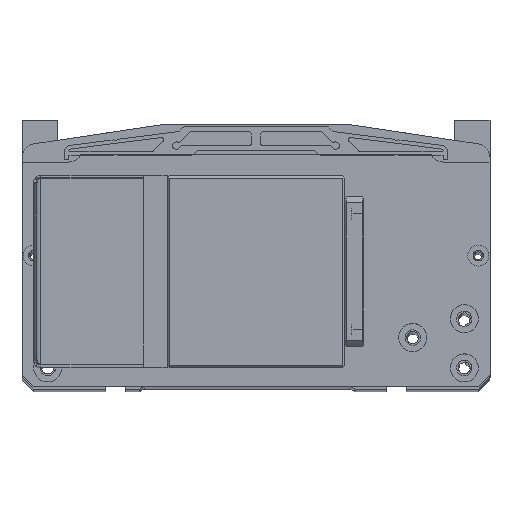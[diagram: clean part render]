
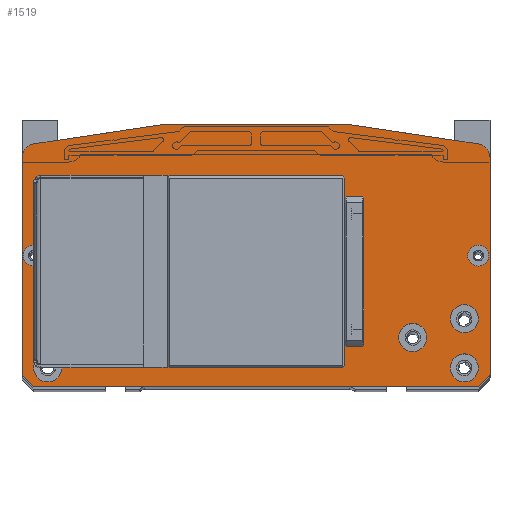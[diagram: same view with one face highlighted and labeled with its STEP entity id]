
A CAD part, top view. The second image highlights one B-rep face of the part: STEP entity #1519.
In plain terms, the highlighted planar face has unit normal (0, 0, 1).
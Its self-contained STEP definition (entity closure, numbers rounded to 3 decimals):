
#1519=ADVANCED_FACE('',(#5804,#5805,#5806,#5807,#5808,#5809,#5810,#5811,
#5812,#5813,#5814,#5815,#5816),#2507,.F.);
#2507=PLANE('',#17803);
#2972=LINE('',#24762,#4388);
#2973=LINE('',#24765,#4389);
#2974=LINE('',#24767,#4390);
#2975=LINE('',#24769,#4391);
#2976=LINE('',#24773,#4392);
#2977=LINE('',#24775,#4393);
#2978=LINE('',#24777,#4394);
#2979=LINE('',#24781,#4395);
#2980=LINE('',#24782,#4396);
#2981=LINE('',#24785,#4397);
#2982=LINE('',#24787,#4398);
#2983=LINE('',#24789,#4399);
#2984=LINE('',#24790,#4400);
#2985=LINE('',#24793,#4401);
#2986=LINE('',#24795,#4402);
#2987=LINE('',#24797,#4403);
#4388=VECTOR('',#19657,1.);
#4389=VECTOR('',#19658,1.);
#4390=VECTOR('',#19659,1.);
#4391=VECTOR('',#19660,1.);
#4392=VECTOR('',#19663,1.);
#4393=VECTOR('',#19664,1.);
#4394=VECTOR('',#19665,1.);
#4395=VECTOR('',#19668,1.);
#4396=VECTOR('',#19669,1.);
#4397=VECTOR('',#19670,1.);
#4398=VECTOR('',#19671,1.);
#4399=VECTOR('',#19672,1.);
#4400=VECTOR('',#19673,1.);
#4401=VECTOR('',#19674,1.);
#4402=VECTOR('',#19675,1.);
#4403=VECTOR('',#19676,1.);
#5804=FACE_BOUND('',#6486,.T.);
#5805=FACE_BOUND('',#6487,.T.);
#5806=FACE_BOUND('',#6488,.T.);
#5807=FACE_BOUND('',#6489,.T.);
#5808=FACE_BOUND('',#6490,.T.);
#5809=FACE_BOUND('',#6491,.T.);
#5810=FACE_BOUND('',#6492,.T.);
#5811=FACE_BOUND('',#6493,.T.);
#5812=FACE_BOUND('',#6494,.T.);
#5813=FACE_BOUND('',#6495,.T.);
#5814=FACE_BOUND('',#6496,.T.);
#5815=FACE_BOUND('',#6497,.T.);
#5816=FACE_BOUND('',#6498,.T.);
#6486=EDGE_LOOP('',(#7846));
#6487=EDGE_LOOP('',(#7847));
#6488=EDGE_LOOP('',(#7848));
#6489=EDGE_LOOP('',(#7849));
#6490=EDGE_LOOP('',(#7850));
#6491=EDGE_LOOP('',(#7851));
#6492=EDGE_LOOP('',(#7852));
#6493=EDGE_LOOP('',(#7853));
#6494=EDGE_LOOP('',(#7854));
#6495=EDGE_LOOP('',(#7855));
#6496=EDGE_LOOP('',(#7856,#7857,#7858,#7859,#7860,#7861,#7862,#7863,#7864,
#7865));
#6497=EDGE_LOOP('',(#7866,#7867,#7868,#7869));
#6498=EDGE_LOOP('',(#7870,#7871,#7872,#7873));
#7846=ORIENTED_EDGE('',*,*,#14468,.T.);
#7847=ORIENTED_EDGE('',*,*,#14469,.T.);
#7848=ORIENTED_EDGE('',*,*,#14470,.T.);
#7849=ORIENTED_EDGE('',*,*,#14471,.T.);
#7850=ORIENTED_EDGE('',*,*,#14472,.T.);
#7851=ORIENTED_EDGE('',*,*,#14473,.T.);
#7852=ORIENTED_EDGE('',*,*,#14474,.T.);
#7853=ORIENTED_EDGE('',*,*,#14475,.T.);
#7854=ORIENTED_EDGE('',*,*,#14476,.T.);
#7855=ORIENTED_EDGE('',*,*,#14477,.T.);
#7856=ORIENTED_EDGE('',*,*,#14478,.F.);
#7857=ORIENTED_EDGE('',*,*,#14479,.T.);
#7858=ORIENTED_EDGE('',*,*,#14480,.F.);
#7859=ORIENTED_EDGE('',*,*,#14481,.T.);
#7860=ORIENTED_EDGE('',*,*,#14482,.F.);
#7861=ORIENTED_EDGE('',*,*,#14483,.F.);
#7862=ORIENTED_EDGE('',*,*,#14484,.T.);
#7863=ORIENTED_EDGE('',*,*,#14485,.F.);
#7864=ORIENTED_EDGE('',*,*,#14486,.F.);
#7865=ORIENTED_EDGE('',*,*,#14487,.T.);
#7866=ORIENTED_EDGE('',*,*,#14488,.T.);
#7867=ORIENTED_EDGE('',*,*,#14489,.T.);
#7868=ORIENTED_EDGE('',*,*,#14490,.T.);
#7869=ORIENTED_EDGE('',*,*,#14491,.T.);
#7870=ORIENTED_EDGE('',*,*,#14492,.F.);
#7871=ORIENTED_EDGE('',*,*,#14493,.F.);
#7872=ORIENTED_EDGE('',*,*,#14494,.T.);
#7873=ORIENTED_EDGE('',*,*,#14495,.T.);
#12774=VERTEX_POINT('',#24743);
#12775=VERTEX_POINT('',#24745);
#12776=VERTEX_POINT('',#24747);
#12777=VERTEX_POINT('',#24749);
#12778=VERTEX_POINT('',#24751);
#12779=VERTEX_POINT('',#24753);
#12780=VERTEX_POINT('',#24755);
#12781=VERTEX_POINT('',#24757);
#12782=VERTEX_POINT('',#24759);
#12783=VERTEX_POINT('',#24761);
#12784=VERTEX_POINT('',#24763);
#12785=VERTEX_POINT('',#24764);
#12786=VERTEX_POINT('',#24766);
#12787=VERTEX_POINT('',#24768);
#12788=VERTEX_POINT('',#24770);
#12789=VERTEX_POINT('',#24772);
#12790=VERTEX_POINT('',#24774);
#12791=VERTEX_POINT('',#24776);
#12792=VERTEX_POINT('',#24778);
#12793=VERTEX_POINT('',#24780);
#12794=VERTEX_POINT('',#24783);
#12795=VERTEX_POINT('',#24784);
#12796=VERTEX_POINT('',#24786);
#12797=VERTEX_POINT('',#24788);
#12798=VERTEX_POINT('',#24791);
#12799=VERTEX_POINT('',#24792);
#12800=VERTEX_POINT('',#24794);
#12801=VERTEX_POINT('',#24796);
#14468=EDGE_CURVE('',#12774,#12774,#16932,.T.);
#14469=EDGE_CURVE('',#12775,#12775,#16933,.T.);
#14470=EDGE_CURVE('',#12776,#12776,#16934,.T.);
#14471=EDGE_CURVE('',#12777,#12777,#16935,.T.);
#14472=EDGE_CURVE('',#12778,#12778,#16936,.T.);
#14473=EDGE_CURVE('',#12779,#12779,#16937,.T.);
#14474=EDGE_CURVE('',#12780,#12780,#16938,.T.);
#14475=EDGE_CURVE('',#12781,#12781,#16939,.T.);
#14476=EDGE_CURVE('',#12782,#12782,#16940,.T.);
#14477=EDGE_CURVE('',#12783,#12783,#16941,.T.);
#14478=EDGE_CURVE('',#12784,#12785,#2972,.T.);
#14479=EDGE_CURVE('',#12784,#12786,#2973,.T.);
#14480=EDGE_CURVE('',#12787,#12786,#2974,.T.);
#14481=EDGE_CURVE('',#12787,#12788,#2975,.T.);
#14482=EDGE_CURVE('',#12789,#12788,#16942,.T.);
#14483=EDGE_CURVE('',#12790,#12789,#2976,.T.);
#14484=EDGE_CURVE('',#12790,#12791,#2977,.T.);
#14485=EDGE_CURVE('',#12792,#12791,#2978,.T.);
#14486=EDGE_CURVE('',#12793,#12792,#16943,.T.);
#14487=EDGE_CURVE('',#12793,#12785,#2979,.T.);
#14488=EDGE_CURVE('',#12794,#12795,#2980,.T.);
#14489=EDGE_CURVE('',#12795,#12796,#2981,.T.);
#14490=EDGE_CURVE('',#12796,#12797,#2982,.T.);
#14491=EDGE_CURVE('',#12797,#12794,#2983,.T.);
#14492=EDGE_CURVE('',#12798,#12799,#2984,.T.);
#14493=EDGE_CURVE('',#12800,#12798,#2985,.T.);
#14494=EDGE_CURVE('',#12800,#12801,#2986,.T.);
#14495=EDGE_CURVE('',#12801,#12799,#2987,.T.);
#16932=CIRCLE('',#17791,1.65);
#16933=CIRCLE('',#17792,1.65);
#16934=CIRCLE('',#17793,4.5);
#16935=CIRCLE('',#17794,4.5);
#16936=CIRCLE('',#17795,6.);
#16937=CIRCLE('',#17796,6.);
#16938=CIRCLE('',#17797,6.);
#16939=CIRCLE('',#17798,6.);
#16940=CIRCLE('',#17799,6.);
#16941=CIRCLE('',#17800,6.);
#16942=CIRCLE('',#17801,6.);
#16943=CIRCLE('',#17802,6.);
#17791=AXIS2_PLACEMENT_3D('',#24742,#19637,#19638);
#17792=AXIS2_PLACEMENT_3D('',#24744,#19639,#19640);
#17793=AXIS2_PLACEMENT_3D('',#24746,#19641,#19642);
#17794=AXIS2_PLACEMENT_3D('',#24748,#19643,#19644);
#17795=AXIS2_PLACEMENT_3D('',#24750,#19645,#19646);
#17796=AXIS2_PLACEMENT_3D('',#24752,#19647,#19648);
#17797=AXIS2_PLACEMENT_3D('',#24754,#19649,#19650);
#17798=AXIS2_PLACEMENT_3D('',#24756,#19651,#19652);
#17799=AXIS2_PLACEMENT_3D('',#24758,#19653,#19654);
#17800=AXIS2_PLACEMENT_3D('',#24760,#19655,#19656);
#17801=AXIS2_PLACEMENT_3D('',#24771,#19661,#19662);
#17802=AXIS2_PLACEMENT_3D('',#24779,#19666,#19667);
#17803=AXIS2_PLACEMENT_3D('',#24798,#19677,#19678);
#19637=DIRECTION('',(0.,0.,-1.));
#19638=DIRECTION('',(1.,0.,0.));
#19639=DIRECTION('',(0.,0.,-1.));
#19640=DIRECTION('',(1.,0.,0.));
#19641=DIRECTION('',(0.,0.,-1.));
#19642=DIRECTION('',(1.,0.,0.));
#19643=DIRECTION('',(0.,0.,-1.));
#19644=DIRECTION('',(1.,0.,0.));
#19645=DIRECTION('',(0.,0.,-1.));
#19646=DIRECTION('',(1.,0.,0.));
#19647=DIRECTION('',(0.,0.,-1.));
#19648=DIRECTION('',(1.,0.,0.));
#19649=DIRECTION('',(0.,0.,-1.));
#19650=DIRECTION('',(1.,0.,0.));
#19651=DIRECTION('',(0.,0.,-1.));
#19652=DIRECTION('',(1.,0.,0.));
#19653=DIRECTION('',(0.,0.,-1.));
#19654=DIRECTION('',(1.,0.,0.));
#19655=DIRECTION('',(0.,0.,-1.));
#19656=DIRECTION('',(1.,0.,0.));
#19657=DIRECTION('',(-0.707,0.707,0.));
#19658=DIRECTION('',(1.,0.,0.));
#19659=DIRECTION('',(-0.707,-0.707,0.));
#19660=DIRECTION('',(0.,1.,0.));
#19661=DIRECTION('',(0.,0.,-1.));
#19662=DIRECTION('',(0.148,0.989,0.));
#19663=DIRECTION('',(0.989,-0.148,0.));
#19664=DIRECTION('',(-1.,0.,0.));
#19665=DIRECTION('',(0.989,0.148,0.));
#19666=DIRECTION('',(0.,0.,-1.));
#19667=DIRECTION('',(-1.,0.,0.));
#19668=DIRECTION('',(0.,-1.,0.));
#19669=DIRECTION('',(0.,1.,0.));
#19670=DIRECTION('',(1.,0.,0.));
#19671=DIRECTION('',(0.,-1.,0.));
#19672=DIRECTION('',(-1.,0.,0.));
#19673=DIRECTION('',(0.,1.,0.));
#19674=DIRECTION('',(1.,0.,0.));
#19675=DIRECTION('',(0.,1.,0.));
#19676=DIRECTION('',(1.,0.,0.));
#19677=DIRECTION('',(0.,0.,-1.));
#19678=DIRECTION('',(-1.,0.,0.));
#24742=CARTESIAN_POINT('',(-42.,33.,463.));
#24743=CARTESIAN_POINT('',(-40.35,33.,463.));
#24744=CARTESIAN_POINT('',(-42.,69.,463.));
#24745=CARTESIAN_POINT('',(-40.35,69.,463.));
#24746=CARTESIAN_POINT('',(-95.,58.,463.));
#24747=CARTESIAN_POINT('',(-90.5,58.,463.));
#24748=CARTESIAN_POINT('',(95.,58.,463.));
#24749=CARTESIAN_POINT('',(99.5,58.,463.));
#24750=CARTESIAN_POINT('',(-67.,23.,463.));
#24751=CARTESIAN_POINT('',(-61.,23.,463.));
#24752=CARTESIAN_POINT('',(67.,23.,463.));
#24753=CARTESIAN_POINT('',(73.,23.,463.));
#24754=CARTESIAN_POINT('',(-89.,31.,463.));
#24755=CARTESIAN_POINT('',(-83.,31.,463.));
#24756=CARTESIAN_POINT('',(89.,31.,463.));
#24757=CARTESIAN_POINT('',(95.,31.,463.));
#24758=CARTESIAN_POINT('',(-89.,10.,463.));
#24759=CARTESIAN_POINT('',(-83.,10.,463.));
#24760=CARTESIAN_POINT('',(89.,10.,463.));
#24761=CARTESIAN_POINT('',(95.,10.,463.));
#24762=CARTESIAN_POINT('',(-95.,2.,463.));
#24763=CARTESIAN_POINT('',(-95.,2.,463.));
#24764=CARTESIAN_POINT('',(-100.,7.,463.));
#24765=CARTESIAN_POINT('',(67.5,2.,463.));
#24766=CARTESIAN_POINT('',(95.,2.,463.));
#24767=CARTESIAN_POINT('',(100.,7.,463.));
#24768=CARTESIAN_POINT('',(100.,7.,463.));
#24769=CARTESIAN_POINT('',(100.,7.,463.));
#24770=CARTESIAN_POINT('',(100.,99.833,463.));
#24771=CARTESIAN_POINT('',(94.,99.833,463.));
#24772=CARTESIAN_POINT('',(94.89,105.766,463.));
#24773=CARTESIAN_POINT('',(40.,114.,463.));
#24774=CARTESIAN_POINT('',(40.,114.,463.));
#24775=CARTESIAN_POINT('',(40.,114.,463.));
#24776=CARTESIAN_POINT('',(-40.,114.,463.));
#24777=CARTESIAN_POINT('',(-94.89,105.766,463.));
#24778=CARTESIAN_POINT('',(-94.89,105.766,463.));
#24779=CARTESIAN_POINT('',(-94.,99.833,463.));
#24780=CARTESIAN_POINT('',(-100.,99.833,463.));
#24781=CARTESIAN_POINT('',(-100.,99.833,463.));
#24782=CARTESIAN_POINT('',(-37.,91.,463.));
#24783=CARTESIAN_POINT('',(-37.,11.,463.));
#24784=CARTESIAN_POINT('',(-37.,91.,463.));
#24785=CARTESIAN_POINT('',(37.,91.,463.));
#24786=CARTESIAN_POINT('',(37.,91.,463.));
#24787=CARTESIAN_POINT('',(37.,11.,463.));
#24788=CARTESIAN_POINT('',(37.,11.,463.));
#24789=CARTESIAN_POINT('',(-37.,11.,463.));
#24790=CARTESIAN_POINT('',(45.5,80.466,463.));
#24791=CARTESIAN_POINT('',(45.5,21.534,463.));
#24792=CARTESIAN_POINT('',(45.5,80.466,463.));
#24793=CARTESIAN_POINT('',(45.5,21.534,463.));
#24794=CARTESIAN_POINT('',(38.5,21.534,463.));
#24795=CARTESIAN_POINT('',(38.5,80.466,463.));
#24796=CARTESIAN_POINT('',(38.5,80.466,463.));
#24797=CARTESIAN_POINT('',(45.5,80.466,463.));
#24798=CARTESIAN_POINT('',(0.,2.,463.));
